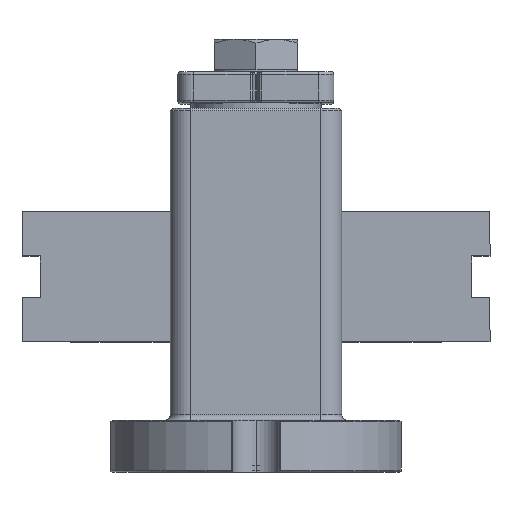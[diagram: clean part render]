
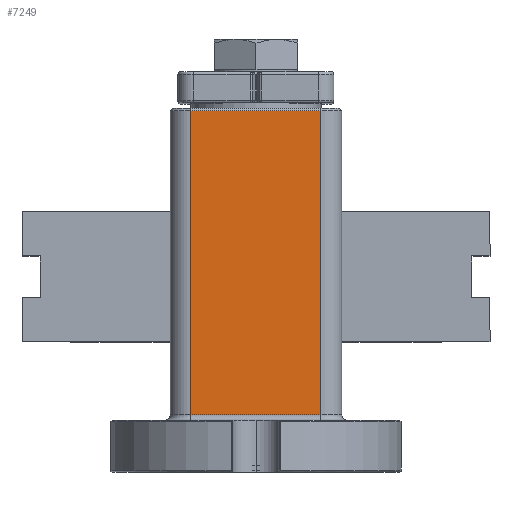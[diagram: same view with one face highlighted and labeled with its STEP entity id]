
A CAD part, top view. The second image highlights one B-rep face of the part: STEP entity #7249.
In plain terms, the highlighted planar face has unit normal (0, 0, 1).
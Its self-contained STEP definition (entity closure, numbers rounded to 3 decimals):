
#178 = FACE_OUTER_BOUND ( 'NONE', #6945, .T. ) ;
#895 = LINE ( 'NONE', #2565, #3983 ) ;
#1191 = DIRECTION ( 'NONE',  ( 1., 0., 0. ) ) ;
#1224 = VECTOR ( 'NONE', #6178, 1000. ) ;
#1226 = EDGE_CURVE ( 'NONE', #4621, #9043, #6196, .T. ) ;
#1971 = CARTESIAN_POINT ( 'NONE',  ( -12.5, 69.5, 16.5 ) ) ;
#2176 = CARTESIAN_POINT ( 'NONE',  ( -12.5, 11., 16.5 ) ) ;
#2393 = CARTESIAN_POINT ( 'NONE',  ( -12.5, 70., 16.5 ) ) ;
#2422 = VERTEX_POINT ( 'NONE', #2176 ) ;
#2565 = CARTESIAN_POINT ( 'NONE',  ( -12.5, 70., 16.5 ) ) ;
#2741 = ORIENTED_EDGE ( 'NONE', *, *, #8404, .T. ) ;
#2984 = DIRECTION ( 'NONE',  ( 0., 0., -1. ) ) ;
#3227 = CARTESIAN_POINT ( 'NONE',  ( -12.5, 69.5, 16.5 ) ) ;
#3324 = DIRECTION ( 'NONE',  ( 0., -1., 0. ) ) ;
#3949 = VECTOR ( 'NONE', #4675, 1000. ) ;
#3983 = VECTOR ( 'NONE', #3324, 1000. ) ;
#4621 = VERTEX_POINT ( 'NONE', #8370 ) ;
#4629 = CARTESIAN_POINT ( 'NONE',  ( 12.5, 70., 16.5 ) ) ;
#4675 = DIRECTION ( 'NONE',  ( -1., 0., 0. ) ) ;
#5030 = ORIENTED_EDGE ( 'NONE', *, *, #1226, .F. ) ;
#5432 = ORIENTED_EDGE ( 'NONE', *, *, #6952, .T. ) ;
#5485 = LINE ( 'NONE', #3227, #3949 ) ;
#5630 = VECTOR ( 'NONE', #1191, 1000. ) ;
#5805 = AXIS2_PLACEMENT_3D ( 'NONE', #2393, #2984, #9200 ) ;
#6178 = DIRECTION ( 'NONE',  ( 0., -1., 0. ) ) ;
#6196 = LINE ( 'NONE', #4629, #1224 ) ;
#6518 = VERTEX_POINT ( 'NONE', #1971 ) ;
#6609 = ORIENTED_EDGE ( 'NONE', *, *, #7063, .T. ) ;
#6945 = EDGE_LOOP ( 'NONE', ( #5432, #6609, #5030, #2741 ) ) ;
#6952 = EDGE_CURVE ( 'NONE', #6518, #2422, #895, .T. ) ;
#7063 = EDGE_CURVE ( 'NONE', #2422, #9043, #8938, .T. ) ;
#7249 = ADVANCED_FACE ( 'NONE', ( #178 ), #7466, .F. ) ;
#7466 = PLANE ( 'NONE',  #5805 ) ;
#7654 = CARTESIAN_POINT ( 'NONE',  ( 12.5, 11., 16.5 ) ) ;
#7962 = CARTESIAN_POINT ( 'NONE',  ( -12.5, 11., 16.5 ) ) ;
#8370 = CARTESIAN_POINT ( 'NONE',  ( 12.5, 69.5, 16.5 ) ) ;
#8404 = EDGE_CURVE ( 'NONE', #4621, #6518, #5485, .T. ) ;
#8938 = LINE ( 'NONE', #7962, #5630 ) ;
#9043 = VERTEX_POINT ( 'NONE', #7654 ) ;
#9200 = DIRECTION ( 'NONE',  ( -1., 0., 0. ) ) ;
